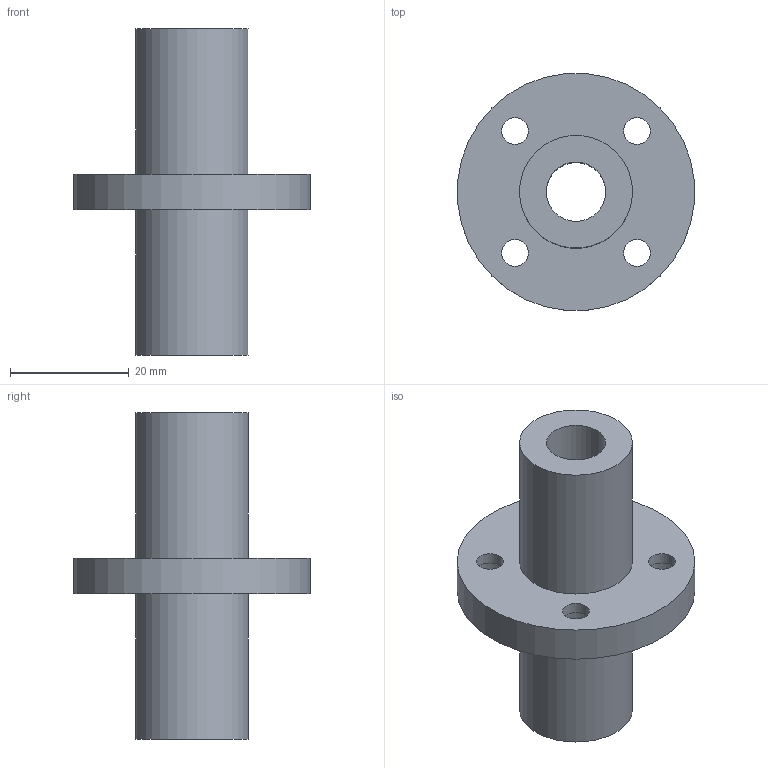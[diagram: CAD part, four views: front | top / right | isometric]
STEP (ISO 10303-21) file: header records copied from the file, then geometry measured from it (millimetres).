
FILE_DESCRIPTION(/* description */ (''),/* implementation_level */ '2;1');
FILE_NAME(/* name */ 'LMFM10LUU',/* time_stamp */ '2019-07-03T11:00:35+02:00',/* author */ ('VĂ©gh MĂˇtĂ©'),/* organization */ ('Bearing Kft'),/* preprocessor_version */ 'ST-DEVELOPER v16.7',/* originating_system */ 'DEX',/* authorisation */ $);
FILE_SCHEMA (('AUTOMOTIVE_DESIGN {1 0 10303 214 3 1 1}'));
Length unit declared in the file: millimetre
Products named in the file (1): LMFM10LUU
Bounding box: 39.85 x 39.85 x 55 mm (x, y, z)
Volume: 16266.5 mm3; surface area: 8143.4 mm2
Topology: 1 solids, 1 shells, 341 faces, 859 edges, 574 vertices
Faces by surface type: plane 266, bspline 60, cylinder 15
Full cylindrical faces by diameter (mm): 4.5 x4, 7.5 x4, 10 x1, 19 x2, 40 x1
Entity records: 12610 total; most frequent: CARTESIAN_POINT 4808, ORIENTED_EDGE 1680, DIRECTION 1314, EDGE_CURVE 840, LINE 690, VECTOR 690, VERTEX_POINT 570, EDGE_LOOP 420
